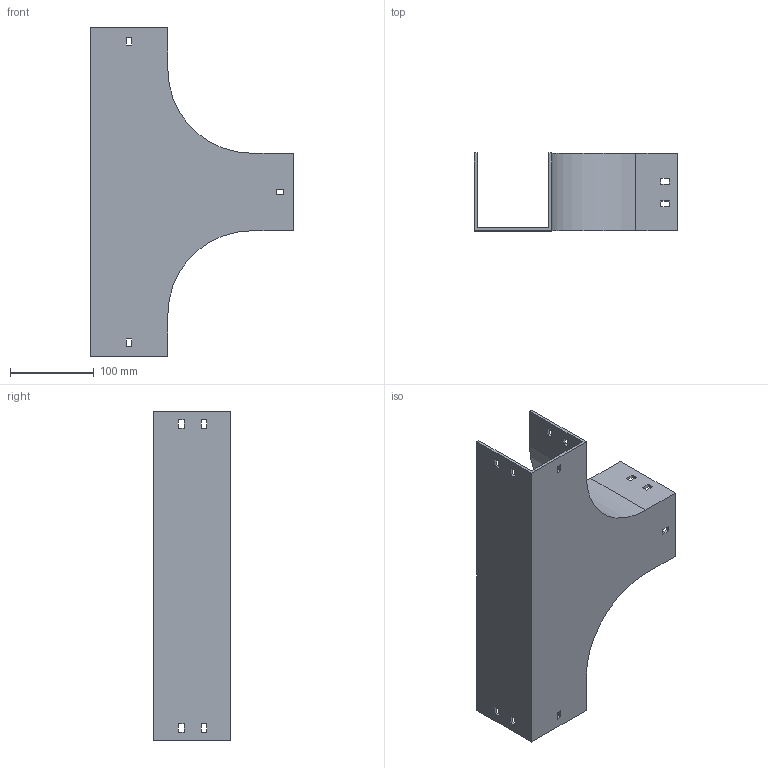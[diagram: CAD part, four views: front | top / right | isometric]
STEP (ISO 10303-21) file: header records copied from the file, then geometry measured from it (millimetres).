
FILE_DESCRIPTION (( 'STEP AP214' ), '1' );
FILE_NAME ('15B1I092.step', '2025-02-21T09:55:35', ( '' ), ( '' ), 'SwSTEP 2.0', 'SolidWorks 2023', '' );
FILE_SCHEMA (( 'AUTOMOTIVE_DESIGN' ));
Length unit declared in the file: millimetre
Products named in the file (1): 15B1I092
Bounding box: 242.5 x 92.5 x 392.5 mm (x, y, z)
Volume: 471239.2 mm3; surface area: 277046.6 mm2
Topology: 1 solids, 1 shells, 82 faces, 240 edges, 160 vertices
Faces by surface type: plane 78, cylinder 4
Entity records: 2755 total; most frequent: CARTESIAN_POINT 483, ORIENTED_EDGE 480, DIRECTION 414, EDGE_CURVE 240, VECTOR 232, LINE 232, VERTEX_POINT 160, EDGE_LOOP 112
